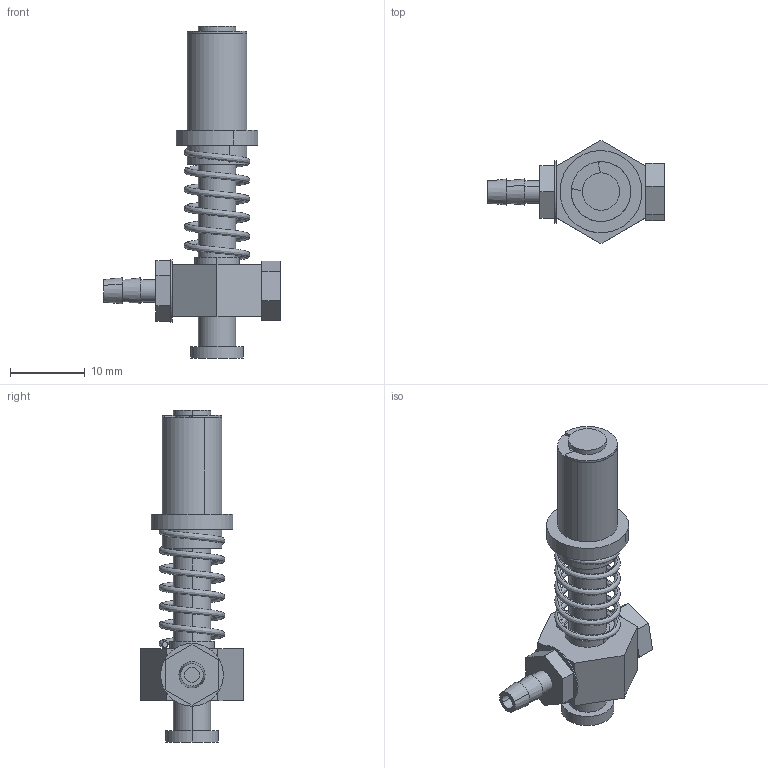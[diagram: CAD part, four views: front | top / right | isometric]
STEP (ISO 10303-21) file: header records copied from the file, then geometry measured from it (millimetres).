
FILE_DESCRIPTION (( 'STEP AP214' ), '1' );
FILE_NAME ('VFS-1008.STEP', '2019-11-16T00:48:29', ( '微软用户' ), ( '微软中国' ), 'SwSTEP 2.0', 'SolidWorks 2016', '' );
FILE_SCHEMA (( 'AUTOMOTIVE_DESIGN' ));
Length unit declared in the file: millimetre
Products named in the file (1): VFS-1008
Bounding box: 23.7 x 13.86 x 44.5 mm (x, y, z)
Volume: 2428.2 mm3; surface area: 3417.3 mm2
Topology: 8 solids, 8 shells, 131 faces, 305 edges, 202 vertices
Faces by surface type: cylinder 66, plane 54, bspline 7, cone 4
Entity records: 8582 total; most frequent: CARTESIAN_POINT 4136, ORIENTED_EDGE 610, DIRECTION 579, EDGE_CURVE 305, AXIS2_PLACEMENT_3D 217, VERTEX_POINT 202, EDGE_LOOP 153, VECTOR 145
